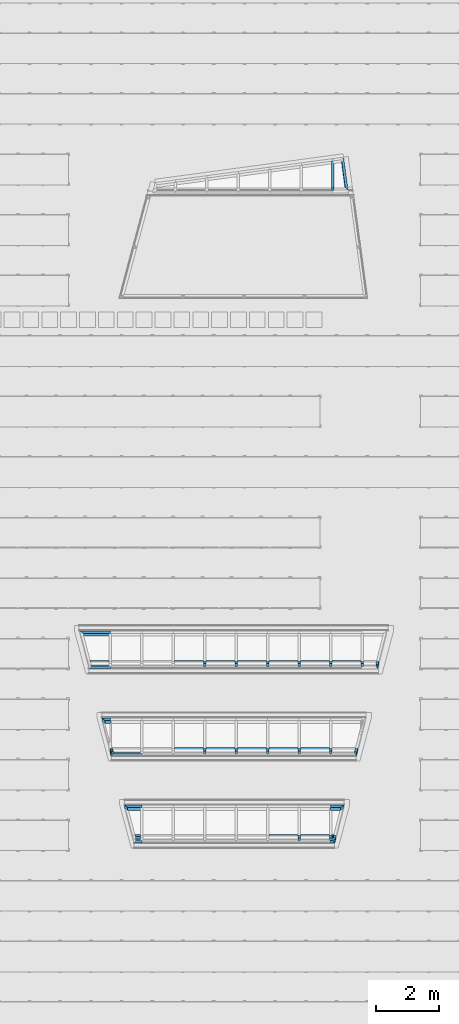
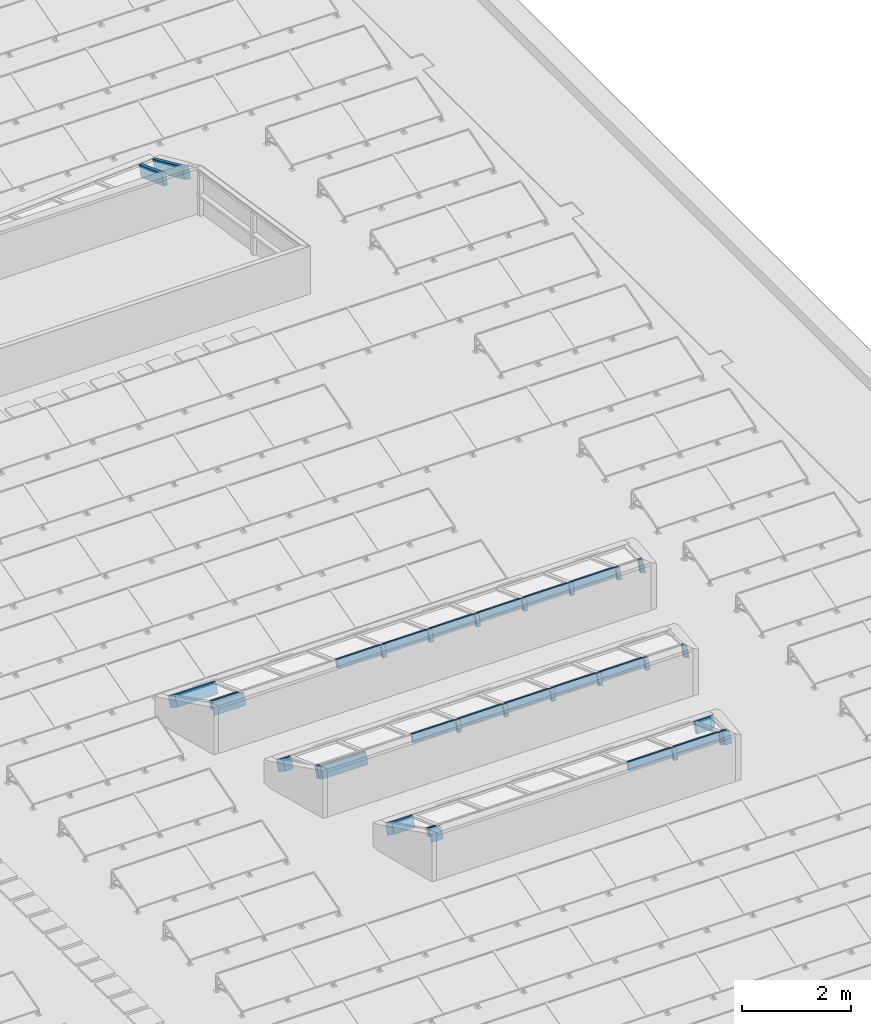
# One storey, part 3 of 20: 44 members, 4 elements without a shape of their own.
"""IFC2X3 building model written with IfcOpenShell, lengths in millimetres."""

from ifc_helpers import new_model, entity, si_unit, converted_unit, derived_unit, money_unit, direction, frame, origin_with_axes, place, context, subcontext, project, spatial, faceted_brep, source, transform, mapped, material, type_object, type_shapes, element, aggregate, save


model = new_model("IFC2X3")

# Units and contexts
model_context = context("Model", 3, precision=0.01, world=origin_with_axes(), true_north=direction((0.0, 1.0)))
plan_context = context("Plan", 3, precision=0.01, world=origin_with_axes(), true_north=direction((0.0, 1.0)))
body_context = subcontext(model_context, "Body", "Model", "MODEL_VIEW")
ifc_project = project(units=[si_unit("LENGTHUNIT", "METRE", prefix="MILLI"), si_unit("AREAUNIT", "SQUARE_METRE"), si_unit("VOLUMEUNIT", "CUBIC_METRE"), converted_unit("PLANEANGLEUNIT", "DEGREE", entity("IfcPlaneAngleMeasure", 0.0174532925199), si_unit("PLANEANGLEUNIT", "RADIAN"), dimensions=[0, 0, 0, 0, 0, 0, 0]), si_unit("SOLIDANGLEUNIT", "STERADIAN"), money_unit("EUR"), converted_unit("TIMEUNIT", "Year", entity("IfcTimeMeasure", 31556926.0), si_unit("TIMEUNIT", "SECOND"), dimensions=[0, 0, 1, 0, 0, 0, 0]), si_unit("MASSUNIT", "GRAM", prefix="KILO"), si_unit("THERMODYNAMICTEMPERATUREUNIT", "DEGREE_CELSIUS"), si_unit("LUMINOUSINTENSITYUNIT", "LUMEN"), si_unit("ENERGYUNIT", "JOULE", prefix="MEGA"), derived_unit("THERMALCONDUCTANCEUNIT", [(si_unit("POWERUNIT", "WATT"), 1), (si_unit("LENGTHUNIT", "METRE"), -1), (si_unit("THERMODYNAMICTEMPERATUREUNIT", "KELVIN"), -1)]), derived_unit("SPECIFICHEATCAPACITYUNIT", [(si_unit("ENERGYUNIT", "JOULE"), 1), (si_unit("MASSUNIT", "GRAM", prefix="KILO"), -1), (si_unit("THERMODYNAMICTEMPERATUREUNIT", "KELVIN"), -1)]), derived_unit("MASSDENSITYUNIT", [(si_unit("MASSUNIT", "GRAM", prefix="KILO"), 1), (si_unit("VOLUMEUNIT", "CUBIC_METRE"), -1)])], contexts=[model_context, plan_context])

# Site, building, storey
site_placement = place(None, origin_with_axes())
site = spatial("IfcSite", under=ifc_project, at=site_placement, Name="Site", CompositionType="ELEMENT")
building_placement = place(site_placement, origin_with_axes())
building = spatial("IfcBuilding", under=site, at=building_placement, Name="Naam gebouw", CompositionType="ELEMENT")
storey_placement = place(building_placement, frame((0.0, 0.0, 7920.0), z_axis=(0.0, 0.0, 1.0), x_axis=(1.0, 0.0, 0.0)))
storey = spatial("IfcBuildingStorey", under=building, at=storey_placement, Name="2e verdieping", CompositionType="ELEMENT", Elevation=7920.0)

# Curtain wall, member
curtain_wall_type = type_object("IfcCurtainWallType", Name="Curtain Wall Type", PredefinedType="NOTDEFINED")
curtain_wall_1_placement = place(storey_placement, frame((19106.1234546, 39361.8774302, 819.822664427), z_axis=(0.0, 0.0, 1.0), x_axis=(1.0, 0.0, 0.0)))
curtain_wall_1 = element("IfcCurtainWall", 1, at=curtain_wall_1_placement, inside=storey, type_object=curtain_wall_type, Name="21_Vliesgevel_Wand-x")
ifc_material = material(Name="Metaal - Staal AFW")
member_type_1 = type_object("IfcMemberType", Name="Boundary Frame 80 x 250", PredefinedType="MULLION")
member_1_placement = place(curtain_wall_1_placement, frame((1847.41805946, 649.993391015, 1.73045577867e-07), z_axis=(0.126252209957, -0.932173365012, 0.33928335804), x_axis=(-0.99199817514, -0.118638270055, 0.0431807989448)))
member_1 = element("IfcMember", 2, at=member_1_placement, type_object=member_type_1, material=ifc_material, Name="_Vliesgevel - kader_Kader-x", ObjectType="MULLION", context=body_context, shape_type="Brep", body=[
    faceted_brep([(80.0, -50.0, 81.3354715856), (80.0, 200.0, 81.3354715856), (80.0, 200.0, 1035.33173785), (80.0, -50.0, 1035.33173785), (0.0, -50.0, 0.0), (0.0, 200.0, 0.0), (0.0, 200.0, 1126.15869281), (0.0, -50.0, 1126.15869281)], [[[0, 1, 2, 3]], [[1, 0, 4, 5]], [[1, 5, 6, 2]], [[2, 6, 7, 3]], [[4, 0, 3, 7]], [[5, 4, 7, 6]]]),
])

# Curtain wall, members
curtain_wall_2_placement = place(storey_placement, frame((13117.0960946, 24464.1241022, 780.165825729), z_axis=(0.0, 0.0, 1.0), x_axis=(1.0, 0.0, 0.0)))
curtain_wall_2 = element("IfcCurtainWall", 3, at=curtain_wall_2_placement, inside=storey, type_object=curtain_wall_type, Name="21_Vliesgevel_Wand-x")
member_2_placement = place(curtain_wall_2_placement, frame((422.028732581, -628.292648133, 404.355353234), z_axis=(-1.0, 0.0, 0.0), x_axis=(0.0, 0.939692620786, -0.342020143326)))
member_2 = element("IfcMember", 4, at=member_2_placement, type_object=member_type_1, material=ifc_material, Name="_Vliesgevel - kader_Kader-x", ObjectType="MULLION", context=body_context, shape_type="Brep", body=[
    faceted_brep([(80.0, 200.0, -1.07611874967e-06), (80.0, 200.0, 615.857467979), (80.0, -50.0, 615.857467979), (80.0, -50.0, -1.07611874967e-06), (0.0, 200.0, -1.07611874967e-06), (0.0, 200.0, 678.46089194), (0.0, -50.0, 678.46089194), (0.0, -50.0, -1.07611874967e-06)], [[[0, 1, 2, 3]], [[4, 5, 1, 0]], [[1, 5, 6, 2]], [[3, 2, 6, 7]], [[0, 3, 7, 4]], [[7, 6, 5, 4]]]),
])
member_3_placement = place(curtain_wall_2_placement, frame((-549.242657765, 482.66457027, -5.80750558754e-06), z_axis=(1.0, 2.12810050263e-08, -7.74565192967e-09), x_axis=(2.26467723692e-08, -0.939692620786, 0.342020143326)))
member_3 = element("IfcMember", 5, at=member_3_placement, type_object=member_type_1, material=ifc_material, Name="_Vliesgevel - kader_Kader-x", ObjectType="MULLION", context=body_context, shape_type="Brep", body=[
    faceted_brep([(80.0000002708, -50.0000007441, 102.230792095), (80.0000002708, 199.999999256, 102.230793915), (80.0000025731, 199.999992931, 971.271392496), (80.0000025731, -50.0000070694, 971.271390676), (0.0, -50.0, -3.63927554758e-07), (0.0, 200.0, 1.45570666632e-06), (2.57306709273e-06, 199.999992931, 971.271392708), (2.57306354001e-06, -50.0000070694, 971.271390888)], [[[0, 1, 2, 3]], [[1, 0, 4, 5]], [[1, 5, 6, 2]], [[2, 6, 7, 3]], [[4, 0, 3, 7]], [[5, 4, 7, 6]]]),
])

curtain_wall_3_placement = place(storey_placement, frame((20039.1248272, 21694.0652432, 780.165825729), z_axis=(0.0, 0.0, 1.0), x_axis=(1.0, 0.0, 0.0)))
curtain_wall_3 = element("IfcCurtainWall", 6, at=curtain_wall_3_placement, inside=storey, type_object=curtain_wall_type, Name="21_Vliesgevel_Wand-x")
member_4_placement = place(curtain_wall_3_placement, frame((-6500.0, -544.707163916, 373.932723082), z_axis=(-0.240406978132, 0.912133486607, -0.331989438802), x_axis=(0.970672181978, 0.225908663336, -0.0822240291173)))
member_4 = element("IfcMember", 7, at=member_4_placement, type_object=member_type_1, material=ifc_material, Name="_Vliesgevel - kader_Kader-x", ObjectType="MULLION", context=body_context, shape_type="Brep", body=[
    faceted_brep([(80.0, 200.0, -9.96664262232e-06), (80.0, 200.0, 68.0191976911), (80.0, -50.0, 68.0191976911), (80.0, -50.0, -9.96664262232e-06), (0.0, 200.0, -9.96664262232e-06), (0.0, 200.0, 68.0191976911), (0.0, -50.0, 68.0191976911), (0.0, -50.0, -9.96664262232e-06)], [[[0, 1, 2, 3]], [[4, 5, 1, 0]], [[1, 5, 6, 2]], [[3, 2, 6, 7]], [[0, 3, 7, 4]], [[7, 6, 5, 4]]]),
])
member_5_placement = place(curtain_wall_3_placement, frame((-6477.9697669, -628.292652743, 404.355353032), z_axis=(-0.240406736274, 0.912133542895, -0.33198945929), x_axis=(0.970672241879, 0.225908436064, -0.0822239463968)))
member_5 = element("IfcMember", 8, at=member_5_placement, type_object=member_type_1, material=ifc_material, Name="_Vliesgevel - kader_Kader-x", ObjectType="MULLION", context=body_context, shape_type="Brep", body=[
    faceted_brep([(80.0, -50.0, 62.6034825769), (80.0, 200.0, 62.6034825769), (80.0, 200.0, 91.6373469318), (80.0, -50.0, 91.6373469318), (0.0, -50.0, 0.0), (0.0, 200.0, 0.0), (0.0, 200.0, 91.6373469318), (0.0, -50.0, 91.6373469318)], [[[0, 1, 2, 3]], [[1, 0, 4, 5]], [[1, 5, 6, 2]], [[2, 6, 7, 3]], [[4, 0, 3, 7]], [[5, 4, 7, 6]]]),
])
member_6_placement = place(curtain_wall_3_placement, frame((-5500.0, -628.29262802, 404.355344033), z_axis=(-1.0, -2.52805225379e-08, 9.20135697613e-09), x_axis=(-2.69029699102e-08, 0.939692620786, -0.342020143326)))
member_6 = element("IfcMember", 9, at=member_6_placement, type_object=member_type_1, material=ifc_material, Name="_Vliesgevel - kader_Kader-x", ObjectType="MULLION", context=body_context, shape_type="Brep", body=[
    faceted_brep([(80.0, 200.0, -3.0571722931e-06), (80.0000028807, 200.000007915, 915.366282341), (80.0000028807, -49.9999920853, 915.366284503), (80.0, -50.0, -8.95560958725e-07), (0.0, 200.0, -2.80540923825e-06), (3.07771585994e-06, 200.000008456, 977.96976517), (3.07771585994e-06, -49.999991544, 977.969767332), (0.0, -50.0, -6.4379612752e-07)], [[[0, 1, 2, 3]], [[4, 5, 1, 0]], [[1, 5, 6, 2]], [[3, 2, 6, 7]], [[0, 3, 7, 4]], [[7, 6, 5, 4]]]),
])
member_7_placement = place(curtain_wall_3_placement, frame((-6770.78008671, 482.664501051, 1.75055507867e-05), z_axis=(1.0, 3.12880195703e-07, -1.13879078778e-07), x_axis=(3.32960149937e-07, -0.939692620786, 0.342020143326)))
member_7 = element("IfcMember", 10, at=member_7_placement, type_object=member_type_1, material=ifc_material, Name="_Vliesgevel - kader_Kader-x", ObjectType="MULLION", context=body_context, shape_type="Brep", body=[
    faceted_brep([(80.0000039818, -50.0000109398, 102.230748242), (80.0000039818, 199.99998906, 102.230774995), (80.0000105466, 199.999971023, 270.780118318), (80.0000105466, -50.0000289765, 270.780091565), (0.0, -50.0, -5.35056621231e-06), (0.0, 200.0, 2.1402268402e-05), (1.05465929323e-05, 199.999971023, 270.780121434), (1.0546596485e-05, -50.0000289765, 270.780094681)], [[[0, 1, 2, 3]], [[1, 0, 4, 5]], [[1, 5, 6, 2]], [[2, 6, 7, 3]], [[4, 0, 3, 7]], [[5, 4, 7, 6]]]),
])

curtain_wall_4_placement = place(storey_placement, frame((20039.1248272, 18928.1634329, 780.165825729), z_axis=(0.0, 0.0, 1.0), x_axis=(1.0, 0.0, 0.0)))
curtain_wall_4 = element("IfcCurtainWall", 11, at=curtain_wall_4_placement, inside=storey, type_object=curtain_wall_type, Name="21_Vliesgevel_Wand-x")
member_8_placement = place(curtain_wall_4_placement, frame((-5500.0, -628.29262802, 404.355344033), z_axis=(-1.0, -2.52805272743e-08, 9.20135698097e-09), x_axis=(-2.69029743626e-08, 0.939692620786, -0.342020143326)))
member_8 = element("IfcMember", 12, at=member_8_placement, type_object=member_type_1, material=ifc_material, Name="_Vliesgevel - kader_Kader-x", ObjectType="MULLION", context=body_context, shape_type="Brep", body=[
    faceted_brep([(80.0, 200.0, -3.0571722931e-06), (80.0000006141, 200.000001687, 195.144078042), (80.0000006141, -49.9999983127, 195.144080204), (80.0, -50.0, -8.95559182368e-07), (0.0, 200.0, -2.80540746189e-06), (8.11141376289e-07, 200.000002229, 257.747513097), (8.11139599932e-07, -49.9999977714, 257.747515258), (0.0, -50.0, -6.43794351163e-07)], [[[0, 1, 2, 3]], [[4, 5, 1, 0]], [[1, 5, 6, 2]], [[3, 2, 6, 7]], [[0, 3, 7, 4]], [[7, 6, 5, 4]]]),
])
member_9_placement = place(curtain_wall_4_placement, frame((-6050.55792983, 482.664514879, 1.24725456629e-05), z_axis=(1.0, 1.28766931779e-07, -4.68673311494e-08), x_axis=(1.37030906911e-07, -0.939692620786, 0.342020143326)))
member_9 = element("IfcMember", 13, at=member_9_placement, type_object=member_type_1, material=ifc_material, Name="_Vliesgevel - kader_Kader-x", ObjectType="MULLION", context=body_context, shape_type="Brep", body=[
    faceted_brep([(80.0000016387, -50.0000045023, 102.230773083), (80.0000016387, 199.999995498, 102.230784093), (80.0000088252, 199.999975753, 550.557942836), (80.0000088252, -50.0000242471, 550.557931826), (0.0, -50.0, -2.20204654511e-06), (0.0, 200.0, 8.80817729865e-06), (8.82520900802e-06, 199.999975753, 550.557944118), (8.82520545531e-06, -50.0000242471, 550.557933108)], [[[0, 1, 2, 3]], [[1, 0, 4, 5]], [[1, 5, 6, 2]], [[2, 6, 7, 3]], [[4, 0, 3, 7]], [[5, 4, 7, 6]]]),
])
member_10_placement = place(curtain_wall_4_placement, frame((640.852766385, -628.292711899, 404.355374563), z_axis=(-1.0, 5.95512507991e-07, -2.16748827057e-07), x_axis=(6.33731174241e-07, 0.939692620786, -0.342020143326)))
member_10 = element("IfcMember", 14, at=member_10_placement, type_object=member_type_1, material=ifc_material, Name="_Vliesgevel - kader_Kader-x", ObjectType="MULLION", context=body_context, shape_type="Brep", body=[
    faceted_brep([(79.9999953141, -50.0000128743, 63.2095454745), (79.9999953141, 199.999987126, 63.2095963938), (79.9999895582, 199.999971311, 140.8528384), (79.9999895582, -50.0000286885, 140.852787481), (0.0, -50.0, -1.01838679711e-05), (0.0, 200.0, 4.07354505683e-05), (-1.04417647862e-05, 199.999971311, 140.852832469), (-1.04417647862e-05, -50.0000286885, 140.85278155)], [[[0, 1, 2, 3]], [[1, 0, 4, 5]], [[1, 5, 6, 2]], [[2, 6, 7, 3]], [[4, 0, 3, 7]], [[5, 4, 7, 6]]]),
])
member_11_placement = place(curtain_wall_4_placement, frame((500.0, 482.664585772, -1.33306361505e-05), z_axis=(1.0, -2.66563259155e-08, 9.70211103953e-09), x_axis=(-2.83670701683e-08, -0.939692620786, 0.342020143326)))
member_11 = element("IfcMember", 15, at=member_11_placement, type_object=member_type_1, material=ifc_material, Name="_Vliesgevel - kader_Kader-x", ObjectType="MULLION", context=body_context, shape_type="Brep", body=[
    faceted_brep([(80.0, 200.0, -2.69261590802e-06), (79.9999989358, 200.000002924, 320.691393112), (79.9999989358, -49.9999970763, 320.691395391), (80.0, -50.0, -4.13365341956e-07), (0.0, 200.0, -2.95808177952e-06), (-1.40013867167e-06, 200.000003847, 421.941963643), (-1.40013689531e-06, -49.9999961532, 421.941965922), (0.0, -50.0, -6.78831213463e-07)], [[[0, 1, 2, 3]], [[4, 5, 1, 0]], [[1, 5, 6, 2]], [[3, 2, 6, 7]], [[0, 3, 7, 4]], [[7, 6, 5, 4]]]),
])

# Member
member_type_2 = type_object("IfcMemberType", Name="Mullion Frame 80 x 250", PredefinedType="MULLION")
member_12_placement = place(curtain_wall_1_placement, frame((1500.0, 602.939604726, 17.1261777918), z_axis=(0.0, -0.939692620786, 0.342020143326), x_axis=(-1.0, 0.0, 0.0)))
member_12 = element("IfcMember", 16, at=member_12_placement, type_object=member_type_2, material=ifc_material, Name="_Vliesgevel - kader_Kader-x", ObjectType="MULLION", context=body_context, shape_type="Brep", body=[
    faceted_brep([(40.0, -50.0, 86.5919009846), (40.0, 200.0, 86.5919009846), (40.0, 200.0, 987.073792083), (40.0, -50.0, 987.073792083), (-40.0, -50.0, 75.0614483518), (-40.0, 200.0, 75.0614483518), (-40.0, 200.0, 987.073792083), (-40.0, -50.0, 987.073792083)], [[[0, 1, 2, 3]], [[1, 0, 4, 5]], [[1, 5, 6, 2]], [[2, 6, 7, 3]], [[4, 0, 3, 7]], [[5, 4, 7, 6]]]),
])

aggregate(curtain_wall_1, [member_12, member_1])

member_type_3 = type_object("IfcMemberType", Name="Transom Frame 70 x 175", PredefinedType="MULLION")
member_13_placement = place(curtain_wall_2_placement, frame((-294.814807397, -482.664580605, 351.351071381), z_axis=(1.0, 0.0, 0.0), x_axis=(0.0, -0.939692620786, 0.342020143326)))
member_13 = element("IfcMember", 17, at=member_13_placement, type_object=member_type_3, material=ifc_material, Name="_Vliesgevel - kader_Kader-x", ObjectType="MULLION", context=body_context, shape_type="Brep", body=[
    faceted_brep([(35.0, -50.0, 91.0856029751), (35.0, 125.0, 91.0856029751), (35.0, 125.0, 676.843539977), (35.0, -50.0, 676.843539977), (-35.0, -50.0, 73.7486375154), (-35.0, 125.0, 73.7486375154), (-35.0, 125.0, 676.843539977), (-35.0, -50.0, 676.843539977)], [[[0, 1, 2, 3]], [[1, 0, 4, 5]], [[1, 5, 6, 2]], [[2, 6, 7, 3]], [[4, 0, 3, 7]], [[5, 4, 7, 6]]]),
])

member_14_placement = place(curtain_wall_4_placement, frame((-5796.13013469, -482.664585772, 351.351071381), z_axis=(1.0, 0.0, 0.0), x_axis=(0.0, -0.939692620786, 0.342020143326)))
member_14 = element("IfcMember", 18, at=member_14_placement, type_object=member_type_3, material=ifc_material, Name="_Vliesgevel - kader_Kader-x", ObjectType="MULLION", context=body_context, shape_type="Brep", body=[
    faceted_brep([(35.0, -50.0, 91.0856007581), (35.0, 125.0, 91.0856007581), (35.0, 125.0, 256.130134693), (35.0, -50.0, 256.130134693), (-35.0, -50.0, 73.74863816), (-35.0, 125.0, 73.74863816), (-35.0, 125.0, 256.130134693), (-35.0, -50.0, 256.130134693)], [[[0, 1, 2, 3]], [[1, 0, 4, 5]], [[1, 5, 6, 2]], [[2, 6, 7, 3]], [[4, 0, 3, 7]], [[5, 4, 7, 6]]]),
])

member_15_placement = place(curtain_wall_4_placement, frame((500.0, -482.664585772, 351.351071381), z_axis=(1.0, 0.0, 0.0), x_axis=(0.0, -0.939692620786, 0.342020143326)))
member_15 = element("IfcMember", 19, at=member_15_placement, type_object=member_type_3, material=ifc_material, Name="_Vliesgevel - kader_Kader-x", ObjectType="MULLION", context=body_context, shape_type="Brep", body=[
    faceted_brep([(35.0, -50.0, 40.0), (35.0, 125.0, 40.0), (35.0, 125.0, 87.1474059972), (35.0, -50.0, 87.1474059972), (-35.0, -50.0, 40.0), (-35.0, 125.0, 40.0), (-35.0, 125.0, 103.790367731), (-35.0, -50.0, 103.790367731)], [[[0, 1, 2, 3]], [[1, 0, 4, 5]], [[1, 5, 6, 2]], [[2, 6, 7, 3]], [[4, 0, 3, 7]], [[5, 4, 7, 6]]]),
])

shared_shape_1 = source(origin_with_axes(), body_context, "Body", "Brep", [
    faceted_brep([(-35.0, 50.0, 40.0), (-35.0, -125.0, 40.0), (-35.0, -125.0, 960.0), (-35.0, 50.0, 960.0), (35.0, 50.0, 40.0), (35.0, -125.0, 40.0), (35.0, -125.0, 960.0), (35.0, 50.0, 960.0)], [[[0, 1, 2, 3]], [[1, 0, 4, 5]], [[1, 5, 6, 2]], [[2, 6, 7, 3]], [[4, 0, 3, 7]], [[5, 4, 7, 6]]]),
])
type_shapes(member_type_3, [shared_shape_1])
member_16_placement = place(curtain_wall_2_placement, frame((2422.02873258, -482.664580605, 351.351071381), z_axis=(1.0, 0.0, 0.0), x_axis=(0.0, -0.939692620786, 0.342020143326)))
member_16 = element("IfcMember", 20, at=member_16_placement, type_object=member_type_3, material=ifc_material, Name="_Vliesgevel - kader_Kader-x", ObjectType="MULLION", context=body_context, shape_type="MappedRepresentation", body=[
    mapped(shared_shape_1, transform((0.0, 0.0, 0.0), x_axis=(-1.0, 0.0, 0.0), y_axis=(0.0, -1.0, 0.0), z_axis=(0.0, 0.0, 1.0))),
])

member_17_placement = place(curtain_wall_2_placement, frame((3422.02873258, -482.664580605, 351.351071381), z_axis=(1.0, 0.0, 0.0), x_axis=(0.0, -0.939692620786, 0.342020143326)))
member_17 = element("IfcMember", 21, at=member_17_placement, type_object=member_type_3, material=ifc_material, Name="_Vliesgevel - kader_Kader-x", ObjectType="MULLION", context=body_context, shape_type="MappedRepresentation", body=[
    mapped(shared_shape_1, transform((0.0, 0.0, 0.0), x_axis=(-1.0, 0.0, 0.0), y_axis=(0.0, -1.0, 0.0), z_axis=(0.0, 0.0, 1.0))),
])

member_18_placement = place(curtain_wall_2_placement, frame((4422.02873258, -482.664580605, 351.351071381), z_axis=(1.0, 0.0, 0.0), x_axis=(0.0, -0.939692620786, 0.342020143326)))
member_18 = element("IfcMember", 22, at=member_18_placement, type_object=member_type_3, material=ifc_material, Name="_Vliesgevel - kader_Kader-x", ObjectType="MULLION", context=body_context, shape_type="MappedRepresentation", body=[
    mapped(shared_shape_1, transform((0.0, 0.0, 0.0), x_axis=(-1.0, 0.0, 0.0), y_axis=(0.0, -1.0, 0.0), z_axis=(0.0, 0.0, 1.0))),
])

member_19_placement = place(curtain_wall_2_placement, frame((5422.02873258, -482.664580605, 351.351071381), z_axis=(1.0, 0.0, 0.0), x_axis=(0.0, -0.939692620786, 0.342020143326)))
member_19 = element("IfcMember", 23, at=member_19_placement, type_object=member_type_3, material=ifc_material, Name="_Vliesgevel - kader_Kader-x", ObjectType="MULLION", context=body_context, shape_type="MappedRepresentation", body=[
    mapped(shared_shape_1, transform((0.0, 0.0, 0.0), x_axis=(-1.0, 0.0, 0.0), y_axis=(0.0, -1.0, 0.0), z_axis=(0.0, 0.0, 1.0))),
])

member_20_placement = place(curtain_wall_2_placement, frame((6422.02873258, -482.664580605, 351.351071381), z_axis=(1.0, 0.0, 0.0), x_axis=(0.0, -0.939692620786, 0.342020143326)))
member_20 = element("IfcMember", 24, at=member_20_placement, type_object=member_type_3, material=ifc_material, Name="_Vliesgevel - kader_Kader-x", ObjectType="MULLION", context=body_context, shape_type="MappedRepresentation", body=[
    mapped(shared_shape_1, transform((0.0, 0.0, 0.0), x_axis=(-1.0, 0.0, 0.0), y_axis=(0.0, -1.0, 0.0), z_axis=(0.0, 0.0, 1.0))),
])

member_21_placement = place(curtain_wall_2_placement, frame((7422.02873258, -482.664580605, 351.351071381), z_axis=(1.0, 0.0, 0.0), x_axis=(0.0, -0.939692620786, 0.342020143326)))
member_21 = element("IfcMember", 25, at=member_21_placement, type_object=member_type_3, material=ifc_material, Name="_Vliesgevel - kader_Kader-x", ObjectType="MULLION", context=body_context, shape_type="MappedRepresentation", body=[
    mapped(shared_shape_1, transform((0.0, 0.0, 0.0), x_axis=(-1.0, 0.0, 0.0), y_axis=(0.0, -1.0, 0.0), z_axis=(0.0, 0.0, 1.0))),
])

member_22_placement = place(curtain_wall_3_placement, frame((-500.0, -482.664585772, 351.351071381), z_axis=(1.0, 0.0, 0.0), x_axis=(0.0, -0.939692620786, 0.342020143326)))
member_22 = element("IfcMember", 26, at=member_22_placement, type_object=member_type_3, material=ifc_material, Name="_Vliesgevel - kader_Kader-x", ObjectType="MULLION", context=body_context, shape_type="MappedRepresentation", body=[
    mapped(shared_shape_1, transform((0.0, 0.0, 0.0), x_axis=(-1.0, 0.0, 0.0), y_axis=(0.0, -1.0, 0.0), z_axis=(0.0, 0.0, 1.0))),
])

member_23_placement = place(curtain_wall_3_placement, frame((-4500.0, -482.664585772, 351.351071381), z_axis=(1.0, 0.0, 0.0), x_axis=(0.0, -0.939692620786, 0.342020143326)))
member_23 = element("IfcMember", 27, at=member_23_placement, type_object=member_type_3, material=ifc_material, Name="_Vliesgevel - kader_Kader-x", ObjectType="MULLION", context=body_context, shape_type="MappedRepresentation", body=[
    mapped(shared_shape_1, transform((0.0, 0.0, 0.0), x_axis=(-1.0, 0.0, 0.0), y_axis=(0.0, -1.0, 0.0), z_axis=(0.0, 0.0, 1.0))),
])

member_24_placement = place(curtain_wall_3_placement, frame((-2500.0, -482.664585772, 351.351071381), z_axis=(1.0, 0.0, 0.0), x_axis=(0.0, -0.939692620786, 0.342020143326)))
member_24 = element("IfcMember", 28, at=member_24_placement, type_object=member_type_3, material=ifc_material, Name="_Vliesgevel - kader_Kader-x", ObjectType="MULLION", context=body_context, shape_type="MappedRepresentation", body=[
    mapped(shared_shape_1, transform((0.0, 0.0, 0.0), x_axis=(-1.0, 0.0, 0.0), y_axis=(0.0, -1.0, 0.0), z_axis=(0.0, 0.0, 1.0))),
])

member_25_placement = place(curtain_wall_3_placement, frame((-3500.0, -482.664585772, 351.351071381), z_axis=(1.0, 0.0, 0.0), x_axis=(0.0, -0.939692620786, 0.342020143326)))
member_25 = element("IfcMember", 29, at=member_25_placement, type_object=member_type_3, material=ifc_material, Name="_Vliesgevel - kader_Kader-x", ObjectType="MULLION", context=body_context, shape_type="MappedRepresentation", body=[
    mapped(shared_shape_1, transform((0.0, 0.0, 0.0), x_axis=(-1.0, 0.0, 0.0), y_axis=(0.0, -1.0, 0.0), z_axis=(0.0, 0.0, 1.0))),
])

member_26_placement = place(curtain_wall_3_placement, frame((-1500.0, -482.664585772, 351.351071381), z_axis=(1.0, 0.0, 0.0), x_axis=(0.0, -0.939692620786, 0.342020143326)))
member_26 = element("IfcMember", 30, at=member_26_placement, type_object=member_type_3, material=ifc_material, Name="_Vliesgevel - kader_Kader-x", ObjectType="MULLION", context=body_context, shape_type="MappedRepresentation", body=[
    mapped(shared_shape_1, transform((0.0, 0.0, 0.0), x_axis=(-1.0, 0.0, 0.0), y_axis=(0.0, -1.0, 0.0), z_axis=(0.0, 0.0, 1.0))),
])

member_27_placement = place(curtain_wall_4_placement, frame((-500.0, -482.664585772, 351.351071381), z_axis=(1.0, 0.0, 0.0), x_axis=(0.0, -0.939692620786, 0.342020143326)))
member_27 = element("IfcMember", 31, at=member_27_placement, type_object=member_type_3, material=ifc_material, Name="_Vliesgevel - kader_Kader-x", ObjectType="MULLION", context=body_context, shape_type="MappedRepresentation", body=[
    mapped(shared_shape_1, transform((0.0, 0.0, 0.0), x_axis=(-1.0, 0.0, 0.0), y_axis=(0.0, -1.0, 0.0), z_axis=(0.0, 0.0, 1.0))),
])

member_28_placement = place(curtain_wall_4_placement, frame((-1500.0, -482.664585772, 351.351071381), z_axis=(1.0, 0.0, 0.0), x_axis=(0.0, -0.939692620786, 0.342020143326)))
member_28 = element("IfcMember", 32, at=member_28_placement, type_object=member_type_3, material=ifc_material, Name="_Vliesgevel - kader_Kader-x", ObjectType="MULLION", context=body_context, shape_type="MappedRepresentation", body=[
    mapped(shared_shape_1, transform((0.0, 0.0, 0.0), x_axis=(-1.0, 0.0, 0.0), y_axis=(0.0, -1.0, 0.0), z_axis=(0.0, 0.0, 1.0))),
])

shared_shape_2 = source(origin_with_axes(), body_context, "Body", "Brep", [
    faceted_brep([(-40.0, -200.0, 0.0), (-40.0, -200.0, 74.9741525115), (-40.0, 50.0, 74.9741525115), (-40.0, 50.0, 0.0), (40.0, -200.0, 0.0), (40.0, -200.0, 74.9741525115), (40.0, 50.0, 74.9741525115), (40.0, 50.0, 0.0)], [[[0, 1, 2, 3]], [[4, 5, 1, 0]], [[1, 5, 6, 2]], [[3, 2, 6, 7]], [[0, 3, 7, 4]], [[7, 6, 5, 4]]]),
])
type_shapes(member_type_2, [shared_shape_2])
member_29_placement = place(curtain_wall_2_placement, frame((3422.02873258, -482.664580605, 351.351071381), z_axis=(0.0, -0.939692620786, 0.342020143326), x_axis=(-1.0, 0.0, 0.0)))
member_29 = element("IfcMember", 33, at=member_29_placement, type_object=member_type_2, material=ifc_material, Name="_Vliesgevel - kader_Kader-x", ObjectType="MULLION", context=body_context, shape_type="MappedRepresentation", body=[
    mapped(shared_shape_2, transform((0.0, 0.0, 0.0), x_axis=(-1.0, 0.0, 0.0), y_axis=(0.0, -1.0, 0.0), z_axis=(0.0, 0.0, 1.0))),
])

member_30_placement = place(curtain_wall_2_placement, frame((4422.02873258, -482.664580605, 351.351071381), z_axis=(0.0, -0.939692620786, 0.342020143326), x_axis=(-1.0, 0.0, 0.0)))
member_30 = element("IfcMember", 34, at=member_30_placement, type_object=member_type_2, material=ifc_material, Name="_Vliesgevel - kader_Kader-x", ObjectType="MULLION", context=body_context, shape_type="MappedRepresentation", body=[
    mapped(shared_shape_2, transform((0.0, 0.0, 0.0), x_axis=(-1.0, 0.0, 0.0), y_axis=(0.0, -1.0, 0.0), z_axis=(0.0, 0.0, 1.0))),
])

member_31_placement = place(curtain_wall_2_placement, frame((5422.02873258, -482.664580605, 351.351071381), z_axis=(0.0, -0.939692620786, 0.342020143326), x_axis=(-1.0, 0.0, 0.0)))
member_31 = element("IfcMember", 35, at=member_31_placement, type_object=member_type_2, material=ifc_material, Name="_Vliesgevel - kader_Kader-x", ObjectType="MULLION", context=body_context, shape_type="MappedRepresentation", body=[
    mapped(shared_shape_2, transform((0.0, 0.0, 0.0), x_axis=(-1.0, 0.0, 0.0), y_axis=(0.0, -1.0, 0.0), z_axis=(0.0, 0.0, 1.0))),
])

member_32_placement = place(curtain_wall_2_placement, frame((6422.02873258, -482.664580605, 351.351071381), z_axis=(0.0, -0.939692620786, 0.342020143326), x_axis=(-1.0, 0.0, 0.0)))
member_32 = element("IfcMember", 36, at=member_32_placement, type_object=member_type_2, material=ifc_material, Name="_Vliesgevel - kader_Kader-x", ObjectType="MULLION", context=body_context, shape_type="MappedRepresentation", body=[
    mapped(shared_shape_2, transform((0.0, 0.0, 0.0), x_axis=(-1.0, 0.0, 0.0), y_axis=(0.0, -1.0, 0.0), z_axis=(0.0, 0.0, 1.0))),
])

member_33_placement = place(curtain_wall_2_placement, frame((7422.02873258, -482.664580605, 351.351071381), z_axis=(0.0, -0.939692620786, 0.342020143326), x_axis=(-1.0, 0.0, 0.0)))
member_33 = element("IfcMember", 37, at=member_33_placement, type_object=member_type_2, material=ifc_material, Name="_Vliesgevel - kader_Kader-x", ObjectType="MULLION", context=body_context, shape_type="MappedRepresentation", body=[
    mapped(shared_shape_2, transform((0.0, 0.0, 0.0), x_axis=(-1.0, 0.0, 0.0), y_axis=(0.0, -1.0, 0.0), z_axis=(0.0, 0.0, 1.0))),
])

member_34_placement = place(curtain_wall_2_placement, frame((8422.02873258, -482.664580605, 351.351071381), z_axis=(0.0, -0.939692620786, 0.342020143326), x_axis=(-1.0, 0.0, 0.0)))
member_34 = element("IfcMember", 38, at=member_34_placement, type_object=member_type_2, material=ifc_material, Name="_Vliesgevel - kader_Kader-x", ObjectType="MULLION", context=body_context, shape_type="MappedRepresentation", body=[
    mapped(shared_shape_2, transform((0.0, 0.0, 0.0), x_axis=(-1.0, 0.0, 0.0), y_axis=(0.0, -1.0, 0.0), z_axis=(0.0, 0.0, 1.0))),
])

member_35_placement = place(curtain_wall_3_placement, frame((-500.0, -482.664585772, 351.351071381), z_axis=(0.0, -0.939692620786, 0.342020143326), x_axis=(-1.0, 0.0, 0.0)))
member_35 = element("IfcMember", 39, at=member_35_placement, type_object=member_type_2, material=ifc_material, Name="_Vliesgevel - kader_Kader-x", ObjectType="MULLION", context=body_context, shape_type="MappedRepresentation", body=[
    mapped(shared_shape_2, transform((0.0, 0.0, 0.0), x_axis=(-1.0, 0.0, 0.0), y_axis=(0.0, -1.0, 0.0), z_axis=(0.0, 0.0, 1.0))),
])

member_36_placement = place(curtain_wall_3_placement, frame((-2500.0, -482.664585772, 351.351071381), z_axis=(0.0, -0.939692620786, 0.342020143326), x_axis=(-1.0, 0.0, 0.0)))
member_36 = element("IfcMember", 40, at=member_36_placement, type_object=member_type_2, material=ifc_material, Name="_Vliesgevel - kader_Kader-x", ObjectType="MULLION", context=body_context, shape_type="MappedRepresentation", body=[
    mapped(shared_shape_2, transform((0.0, 0.0, 0.0), x_axis=(-1.0, 0.0, 0.0), y_axis=(0.0, -1.0, 0.0), z_axis=(0.0, 0.0, 1.0))),
])

member_37_placement = place(curtain_wall_3_placement, frame((-3500.0, -482.664585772, 351.351071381), z_axis=(0.0, -0.939692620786, 0.342020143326), x_axis=(-1.0, 0.0, 0.0)))
member_37 = element("IfcMember", 41, at=member_37_placement, type_object=member_type_2, material=ifc_material, Name="_Vliesgevel - kader_Kader-x", ObjectType="MULLION", context=body_context, shape_type="MappedRepresentation", body=[
    mapped(shared_shape_2, transform((0.0, 0.0, 0.0), x_axis=(-1.0, 0.0, 0.0), y_axis=(0.0, -1.0, 0.0), z_axis=(0.0, 0.0, 1.0))),
])

member_38_placement = place(curtain_wall_3_placement, frame((500.0, -482.664585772, 351.351071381), z_axis=(0.0, -0.939692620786, 0.342020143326), x_axis=(-1.0, 0.0, 0.0)))
member_38 = element("IfcMember", 42, at=member_38_placement, type_object=member_type_2, material=ifc_material, Name="_Vliesgevel - kader_Kader-x", ObjectType="MULLION", context=body_context, shape_type="MappedRepresentation", body=[
    mapped(shared_shape_2, transform((0.0, 0.0, 0.0), x_axis=(-1.0, 0.0, 0.0), y_axis=(0.0, -1.0, 0.0), z_axis=(0.0, 0.0, 1.0))),
])

member_39_placement = place(curtain_wall_3_placement, frame((-1500.0, -482.664585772, 351.351071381), z_axis=(0.0, -0.939692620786, 0.342020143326), x_axis=(-1.0, 0.0, 0.0)))
member_39 = element("IfcMember", 43, at=member_39_placement, type_object=member_type_2, material=ifc_material, Name="_Vliesgevel - kader_Kader-x", ObjectType="MULLION", context=body_context, shape_type="MappedRepresentation", body=[
    mapped(shared_shape_2, transform((0.0, 0.0, 0.0), x_axis=(-1.0, 0.0, 0.0), y_axis=(0.0, -1.0, 0.0), z_axis=(0.0, 0.0, 1.0))),
])

member_40_placement = place(curtain_wall_4_placement, frame((-500.0, -482.664585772, 351.351071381), z_axis=(0.0, -0.939692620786, 0.342020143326), x_axis=(-1.0, 0.0, 0.0)))
member_40 = element("IfcMember", 44, at=member_40_placement, type_object=member_type_2, material=ifc_material, Name="_Vliesgevel - kader_Kader-x", ObjectType="MULLION", context=body_context, shape_type="MappedRepresentation", body=[
    mapped(shared_shape_2, transform((0.0, 0.0, 0.0), x_axis=(-1.0, 0.0, 0.0), y_axis=(0.0, -1.0, 0.0), z_axis=(0.0, 0.0, 1.0))),
])

member_41_placement = place(curtain_wall_4_placement, frame((500.0, -482.664585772, 351.351071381), z_axis=(0.0, -0.939692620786, 0.342020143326), x_axis=(-1.0, 0.0, 0.0)))
member_41 = element("IfcMember", 45, at=member_41_placement, type_object=member_type_2, material=ifc_material, Name="_Vliesgevel - kader_Kader-x", ObjectType="MULLION", context=body_context, shape_type="MappedRepresentation", body=[
    mapped(shared_shape_2, transform((0.0, 0.0, 0.0), x_axis=(-1.0, 0.0, 0.0), y_axis=(0.0, -1.0, 0.0), z_axis=(0.0, 0.0, 1.0))),
])

shared_shape_3 = source(origin_with_axes(), body_context, "Body", "Brep", [
    faceted_brep([(-80.0, -200.0, -2.23486708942e-05), (-80.0, -200.0, 96.0847040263), (-80.0, 50.0, 96.0847040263), (-80.0, 50.0, -2.23486708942e-05), (0.0, -200.0, -2.23486708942e-05), (0.0, -200.0, 159.294193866), (0.0, 50.0, 159.294193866), (0.0, 50.0, -2.23486708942e-05)], [[[0, 1, 2, 3]], [[4, 5, 1, 0]], [[1, 5, 6, 2]], [[3, 2, 6, 7]], [[0, 3, 7, 4]], [[7, 6, 5, 4]]]),
])
type_shapes(member_type_1, [shared_shape_3])
member_42_placement = place(curtain_wall_2_placement, frame((8959.47961759, -482.664580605, 351.351071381), z_axis=(-0.231309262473, -0.914208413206, 0.332744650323), x_axis=(-0.972880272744, 0.217359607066, -0.0791124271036)))
member_42 = element("IfcMember", 46, at=member_42_placement, type_object=member_type_1, material=ifc_material, Name="_Vliesgevel - kader_Kader-x", ObjectType="MULLION", context=body_context, shape_type="MappedRepresentation", body=[
    mapped(shared_shape_3, transform((0.0, 0.0, 0.0), x_axis=(-1.0, 0.0, 0.0), y_axis=(0.0, -1.0, 0.0), z_axis=(0.0, 0.0, 1.0))),
])

aggregate(curtain_wall_2, [member_13, member_16, member_17, member_18, member_19, member_20, member_21, member_2, member_29, member_30, member_31, member_32, member_33, member_34, member_42, member_3])

member_43_placement = place(curtain_wall_3_placement, frame((1367.04988717, -482.664585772, 351.351071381), z_axis=(-0.23130889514, -0.914208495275, 0.332744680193), x_axis=(-0.97288036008, 0.217359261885, -0.0791123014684)))
member_43 = element("IfcMember", 47, at=member_43_placement, type_object=member_type_1, material=ifc_material, Name="_Vliesgevel - kader_Kader-x", ObjectType="MULLION", context=body_context, shape_type="MappedRepresentation", body=[
    mapped(shared_shape_3, transform((0.0, 0.0, 0.0), x_axis=(-1.0, 0.0, 0.0), y_axis=(0.0, -1.0, 0.0), z_axis=(0.0, 0.0, 1.0))),
])

aggregate(curtain_wall_3, [member_22, member_35, member_36, member_23, member_24, member_25, member_26, member_37, member_38, member_39, member_43, member_4, member_5, member_6, member_7])

member_44_placement = place(curtain_wall_4_placement, frame((677.698932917, -482.664585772, 351.351071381), z_axis=(-0.231308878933, -0.914208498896, 0.332744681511), x_axis=(-0.972880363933, 0.217359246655, -0.079112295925)))
member_44 = element("IfcMember", 48, at=member_44_placement, type_object=member_type_1, material=ifc_material, Name="_Vliesgevel - kader_Kader-x", ObjectType="MULLION", context=body_context, shape_type="MappedRepresentation", body=[
    mapped(shared_shape_3, transform((0.0, 0.0, 0.0), x_axis=(-1.0, 0.0, 0.0), y_axis=(0.0, -1.0, 0.0), z_axis=(0.0, 0.0, 1.0))),
])

aggregate(curtain_wall_4, [member_27, member_40, member_14, member_28, member_41, member_8, member_9, member_10, member_44, member_15, member_11])

save(model, "model.ifc")
